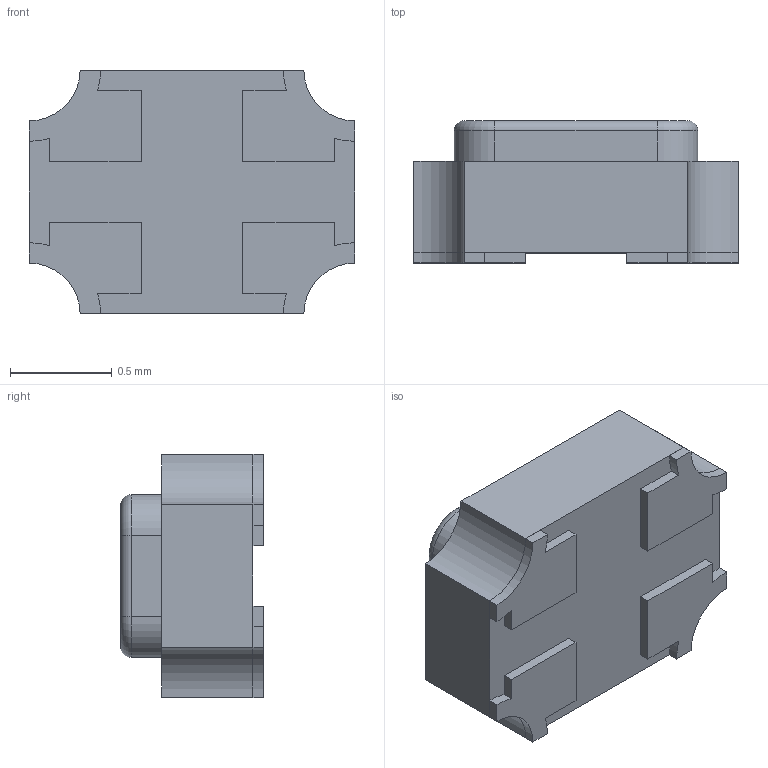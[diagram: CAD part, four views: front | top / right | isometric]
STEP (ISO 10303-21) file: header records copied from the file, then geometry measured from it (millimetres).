
FILE_DESCRIPTION (( 'STEP AP214' ), '1' );
FILE_NAME ( 'OSCCC160X120X70L45X55.STEP', '2021-10-06T06:49:14', ( '' ), ( '' ), '', '©2017 PCB Libraries, Inc.', '' );
FILE_SCHEMA (( 'AUTOMOTIVE_DESIGN' ));
Length unit declared in the file: millimetre
Products named in the file (1): OSCCC160X120X70L45X55
Bounding box: 1.6 x 0.7 x 1.2 mm (x, y, z)
Volume: 1 mm3; surface area: 8.2 mm2
Topology: 5 solids, 5 shells, 74 faces, 178 edges, 116 vertices
Faces by surface type: plane 44, cylinder 24, torus 6
Entity records: 2463 total; most frequent: DIRECTION 386, CARTESIAN_POINT 369, ORIENTED_EDGE 356, EDGE_CURVE 178, AXIS2_PLACEMENT_3D 133, VECTOR 120, LINE 120, VERTEX_POINT 116
